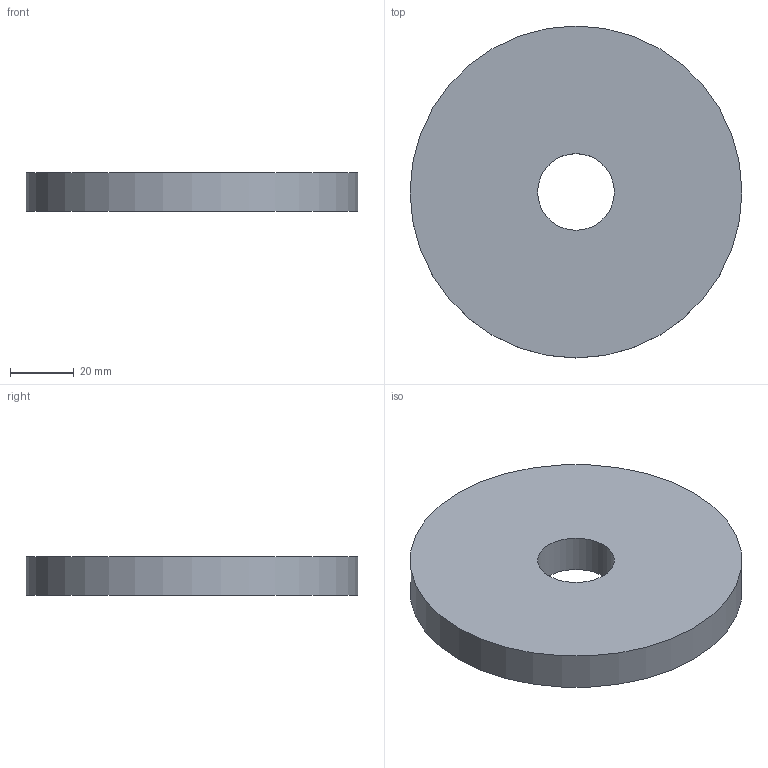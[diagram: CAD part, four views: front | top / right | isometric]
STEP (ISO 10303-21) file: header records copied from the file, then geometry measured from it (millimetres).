
FILE_DESCRIPTION(('FreeCAD Model'),'2;1');
FILE_NAME('Open CASCADE Shape Model','2026-11-05T18:55:07',('FreeCAD'),( 'FreeCAD'),'Open CASCADE STEP processor 7.8','FreeCAD','Unknown');
FILE_SCHEMA(('AUTOMOTIVE_DESIGN { 1 0 10303 214 1 1 1 1 }'));
Length unit declared in the file: millimetre
Products named in the file (1): Open CASCADE STEP translator 7.8 58
Bounding box: 104 x 104 x 12 mm (x, y, z)
Volume: 96509.7 mm3; surface area: 20910.4 mm2
Topology: 1 solids, 1 shells, 4 faces, 6 edges, 4 vertices
Faces by surface type: cylinder 2, plane 2
Full cylindrical faces by diameter (mm): 24 x1, 104 x1
Entity records: 108 total; most frequent: DIRECTION 20, CARTESIAN_POINT 15, ORIENTED_EDGE 12, AXIS2_PLACEMENT_3D 9, FACE_BOUND 6, EDGE_LOOP 6, EDGE_CURVE 6, ADVANCED_FACE 4
